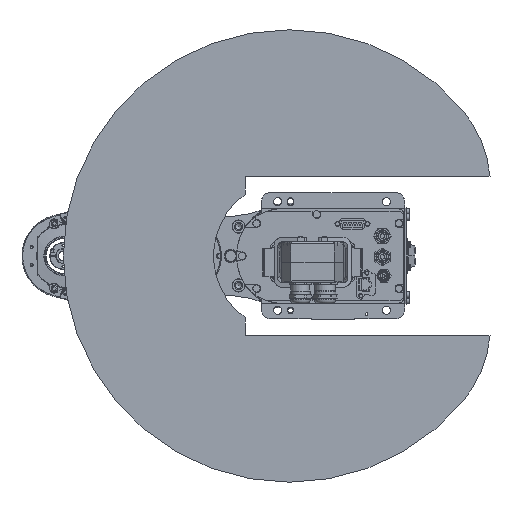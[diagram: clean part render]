
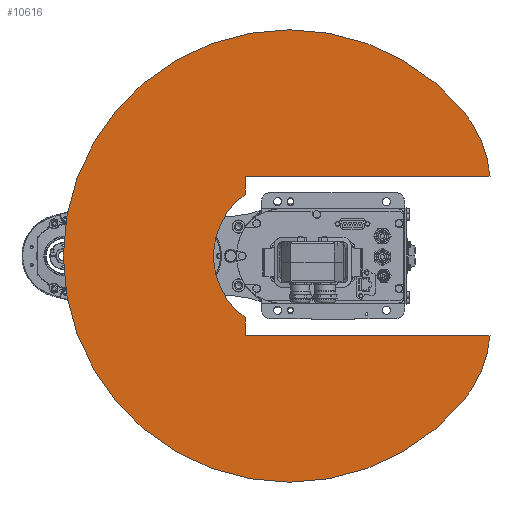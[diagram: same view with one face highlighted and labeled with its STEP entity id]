
A CAD part, front view. The second image highlights one B-rep face of the part: STEP entity #10616.
In plain terms, the highlighted planar face has unit normal (0, -1, 0).
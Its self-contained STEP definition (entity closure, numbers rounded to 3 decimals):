
#10616 = ADVANCED_FACE( '', ( #22913 ), #22914, .F. );
#22913 = FACE_OUTER_BOUND( '', #37470, .T. );
#22914 = PLANE( '', #37471 );
#37470 = EDGE_LOOP( '', ( #67417, #67418, #67419, #67420, #67421, #67422, #67423, #67424 ) );
#37471 = AXIS2_PLACEMENT_3D( '', #67425, #67426, #67427 );
#67417 = ORIENTED_EDGE( '', *, *, #83591, .T. );
#67418 = ORIENTED_EDGE( '', *, *, #74482, .F. );
#67419 = ORIENTED_EDGE( '', *, *, #81137, .F. );
#67420 = ORIENTED_EDGE( '', *, *, #80758, .F. );
#67421 = ORIENTED_EDGE( '', *, *, #83842, .T. );
#67422 = ORIENTED_EDGE( '', *, *, #76380, .T. );
#67423 = ORIENTED_EDGE( '', *, *, #84591, .T. );
#67424 = ORIENTED_EDGE( '', *, *, #78908, .T. );
#67425 = CARTESIAN_POINT( '', ( 38.567, 0., 45.963 ) );
#67426 = DIRECTION( '', ( 0., 1., 0. ) );
#67427 = DIRECTION( '', ( 0., 0., 1. ) );
#74482 = EDGE_CURVE( '', #88519, #88515, #88521, .T. );
#76380 = EDGE_CURVE( '', #91774, #91775, #91776, .T. );
#78908 = EDGE_CURVE( '', #95811, #95809, #95812, .T. );
#80758 = EDGE_CURVE( '', #98501, #98503, #98504, .T. );
#81137 = EDGE_CURVE( '', #98503, #88519, #99039, .T. );
#83591 = EDGE_CURVE( '', #95809, #88515, #102231, .T. );
#83842 = EDGE_CURVE( '', #98501, #91774, #102533, .T. );
#84591 = EDGE_CURVE( '', #91775, #95811, #103414, .T. );
#88515 = VERTEX_POINT( '', #109411 );
#88519 = VERTEX_POINT( '', #109416 );
#88521 = CIRCLE( '', #109419, 130. );
#91774 = VERTEX_POINT( '', #115114 );
#91775 = VERTEX_POINT( '', #115115 );
#91776 = LINE( '', #115116, #115117 );
#95809 = VERTEX_POINT( '', #121861 );
#95811 = VERTEX_POINT( '', #121864 );
#95812 = LINE( '', #121865, #121866 );
#98501 = VERTEX_POINT( '', #126541 );
#98503 = VERTEX_POINT( '', #126544 );
#98504 = CIRCLE( '', #126545, 130. );
#99039 = CIRCLE( '', #127403, 250. );
#102231 = LINE( '', #132746, #132747 );
#102533 = LINE( '', #133372, #133373 );
#103414 = CIRCLE( '', #134660, 84. );
#109411 = CARTESIAN_POINT( '', ( -88., 0., 221.47 ) );
#109416 = CARTESIAN_POINT( '', ( -160.697, 0., 191.511 ) );
#109419 = AXIS2_PLACEMENT_3D( '', #137774, #137775, #137776 );
#115114 = CARTESIAN_POINT( '', ( 88., 0., -49. ) );
#115115 = CARTESIAN_POINT( '', ( 68.228, 0., -49. ) );
#115116 = CARTESIAN_POINT( '', ( 88., 0., -49. ) );
#115117 = VECTOR( '', #139798, 1000. );
#121861 = CARTESIAN_POINT( '', ( -88., 0., -49. ) );
#121864 = CARTESIAN_POINT( '', ( -68.228, 0., -49. ) );
#121865 = CARTESIAN_POINT( '', ( 88., 0., -49. ) );
#121866 = VECTOR( '', #142615, 1000. );
#126541 = CARTESIAN_POINT( '', ( 88., 0., 221.47 ) );
#126544 = CARTESIAN_POINT( '', ( 160.697, 0., 191.511 ) );
#126545 = AXIS2_PLACEMENT_3D( '', #144581, #144582, #144583 );
#127403 = AXIS2_PLACEMENT_3D( '', #145009, #145010, #145011 );
#132746 = CARTESIAN_POINT( '', ( -88., 0., -49. ) );
#132747 = VECTOR( '', #147221, 1000. );
#133372 = CARTESIAN_POINT( '', ( 88., 0., 351. ) );
#133373 = VECTOR( '', #147386, 1000. );
#134660 = AXIS2_PLACEMENT_3D( '', #148009, #148010, #148011 );
#137774 = CARTESIAN_POINT( '', ( -77.135, 0., 91.925 ) );
#137775 = DIRECTION( '', ( 0., 1., 0. ) );
#137776 = DIRECTION( '', ( 1., 0., 0. ) );
#139798 = DIRECTION( '', ( -1., 0., 0. ) );
#142615 = DIRECTION( '', ( -1., 0., 0. ) );
#144581 = CARTESIAN_POINT( '', ( 77.135, 0., 91.925 ) );
#144582 = DIRECTION( '', ( 0., 1., 0. ) );
#144583 = DIRECTION( '', ( 1., 0., 0. ) );
#145009 = CARTESIAN_POINT( '', ( 0., 0., 0. ) );
#145010 = DIRECTION( '', ( 0., 1., 0. ) );
#145011 = DIRECTION( '', ( 1., 0., 0. ) );
#147221 = DIRECTION( '', ( 0., 0., 1. ) );
#147386 = DIRECTION( '', ( 0., 0., -1. ) );
#148009 = CARTESIAN_POINT( '', ( 0., 0., 0. ) );
#148010 = DIRECTION( '', ( 0., 1., 0. ) );
#148011 = DIRECTION( '', ( 1., 0., 0. ) );
